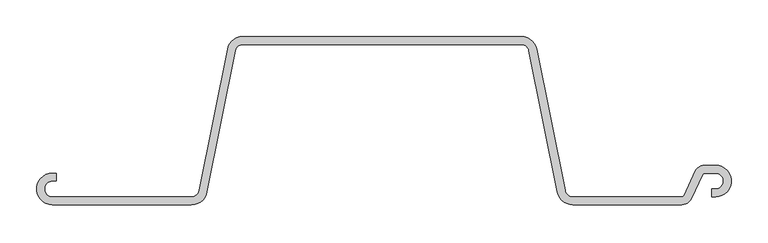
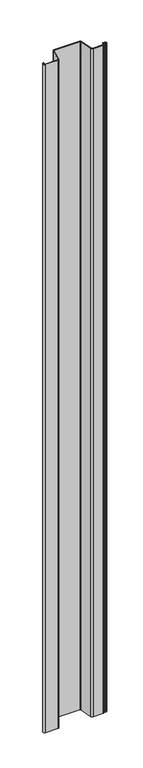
"""IFC4 building model written with IfcOpenShell, lengths in millimetres: proxy geometry, 鋼矢板10H型 : 鋼矢板10H型."""

from ifc_helpers import new_model, si_unit, point, frame, frame_2d, origin, place, context, project, spatial, polyline, circle_curve, trimmed, segment, composite_curve, outline, extrude, source, transform, mapped, element, save


def generic_models_16d24312(model_context):
    return source(origin(), model_context, "Body", "SweptSolid", [
        extrude(outline(composite_curve([segment(trimmed(circle_curve(frame_2d((409.1972607, -101.1142857)), 13.8857143), [point((421.7819917, -106.9826421))], [point((409.1972607, -115.0))], False, "CARTESIAN"), True, "CONTINUOUS"), segment(polyline([(409.1972607, -115.0), (260.2008232, -115.0)]), True, "CONTINUOUS"), segment(trimmed(circle_curve(frame_2d((260.2008232, -93.4)), 21.6), [point((260.2008232, -115.0))], [point((239.0202806, -97.6361085))], False, "CARTESIAN"), True, "CONTINUOUS"), segment(polyline([(239.0202806, -97.6361085), (200.3894481, 95.5180543)]), True, "CONTINUOUS"), segment(trimmed(circle_curve(frame_2d((189.7991768, 93.4)), 10.8), [point((200.3894481, 95.5180543))], [point((189.7991768, 104.2))], True, "CARTESIAN"), True, "CONTINUOUS"), segment(polyline([(189.7991768, 104.2), (-189.7991768, 104.2)]), True, "CONTINUOUS"), segment(trimmed(circle_curve(frame_2d((-189.7991768, 93.4)), 10.8), [point((-189.7991768, 104.2))], [point((-200.3894481, 95.5180543))], True, "CARTESIAN"), True, "CONTINUOUS"), segment(polyline([(-200.3894481, 95.5180543), (-239.0202806, -97.6361085)]), True, "CONTINUOUS"), segment(trimmed(circle_curve(frame_2d((-260.2008232, -93.4)), 21.6), [point((-239.0202806, -97.6361085))], [point((-260.2008232, -115.0))], False, "CARTESIAN"), True, "CONTINUOUS"), segment(polyline([(-260.2008232, -115.0), (-450.0, -115.0)]), True, "CONTINUOUS"), segment(trimmed(circle_curve(frame_2d((-450.0, -93.4)), 21.6), [point((-450.0, -115.0))], [point((-450.0, -71.8))], False, "CARTESIAN"), True, "CONTINUOUS"), segment(polyline([(-450.0, -71.8), (-445.0, -71.8), (-445.0, -82.6), (-450.0, -82.6)]), True, "CONTINUOUS"), segment(trimmed(circle_curve(frame_2d((-450.0, -93.4)), 10.8), [point((-450.0, -82.6))], [point((-450.0, -104.2))], True, "CARTESIAN"), True, "CONTINUOUS"), segment(polyline([(-450.0, -104.2), (-260.2008232, -104.2)]), True, "CONTINUOUS"), segment(trimmed(circle_curve(frame_2d((-260.2008232, -93.4)), 10.8), [point((-260.2008232, -104.2))], [point((-249.6105519, -95.5180543))], True, "CARTESIAN"), True, "CONTINUOUS"), segment(polyline([(-249.6105519, -95.5180543), (-210.9797194, 97.6361085)]), True, "CONTINUOUS"), segment(trimmed(circle_curve(frame_2d((-189.7991768, 93.4)), 21.6), [point((-210.9797194, 97.6361085))], [point((-189.7991768, 115.0))], False, "CARTESIAN"), True, "CONTINUOUS"), segment(polyline([(-189.7991768, 115.0), (189.7991768, 115.0)]), True, "CONTINUOUS"), segment(trimmed(circle_curve(frame_2d((189.7991768, 93.4)), 21.6), [point((189.7991768, 115.0))], [point((210.9797194, 97.6361085))], False, "CARTESIAN"), True, "CONTINUOUS"), segment(polyline([(210.9797194, 97.6361085), (249.6105519, -95.5180543)]), True, "CONTINUOUS"), segment(trimmed(circle_curve(frame_2d((260.2008232, -93.4)), 10.8), [point((249.6105519, -95.5180543))], [point((260.2008232, -104.2))], True, "CARTESIAN"), True, "CONTINUOUS"), segment(polyline([(260.2008232, -104.2), (409.1972607, -104.2)]), True, "CONTINUOUS"), segment(trimmed(circle_curve(frame_2d((409.1972607, -101.1142857)), 3.0857143), [point((409.1972607, -104.2))], [point((411.9938676, -102.4183649))], True, "CARTESIAN"), True, "CONTINUOUS"), segment(polyline([(411.9938676, -102.4183649), (427.569013, -69.0173579)]), True, "CONTINUOUS"), segment(trimmed(circle_curve(frame_2d((440.153744, -74.8857143)), 13.8857143), [point((427.569013, -69.0173579))], [point((440.153744, -61.0))], False, "CARTESIAN"), True, "CONTINUOUS"), segment(polyline([(440.153744, -61.0), (455.0, -61.0)]), True, "CONTINUOUS"), segment(trimmed(circle_curve(frame_2d((455.0, -82.6)), 21.6), [point((455.0, -61.0))], [point((455.0, -104.2))], False, "CARTESIAN"), True, "CONTINUOUS"), segment(polyline([(455.0, -104.2), (450.0, -104.2), (450.0, -93.4), (455.0, -93.4)]), True, "CONTINUOUS"), segment(trimmed(circle_curve(frame_2d((455.0, -82.6)), 10.8), [point((455.0, -93.4))], [point((455.0, -71.8))], True, "CARTESIAN"), True, "CONTINUOUS"), segment(polyline([(455.0, -71.8), (440.153744, -71.8)]), True, "CONTINUOUS"), segment(trimmed(circle_curve(frame_2d((440.153744, -74.8857143)), 3.0857143), [point((440.153744, -71.8))], [point((437.3571371, -73.5816351))], True, "CARTESIAN"), True, "CONTINUOUS"), segment(polyline([(437.3571371, -73.5816351), (421.7819917, -106.9826421)]), True, "CONTINUOUS")], self_intersect=False)), frame((0.0, 0.0, -10500.0), z_axis=(0.0, 0.0, 1.0), x_axis=(1.0, 0.0, 0.0)), (0.0, 0.0, 1.0), 10500.0),
    ])


if __name__ == "__main__":
    model = new_model("IFC4")
    model_context = context("Model", 3, world=origin())
    ifc_project = project(units=[si_unit("LENGTHUNIT", "METRE", prefix="MILLI")], contexts=[model_context])
    site = spatial("IfcSite", under=ifc_project)
    building = spatial("IfcBuilding", under=site)
    placement = place(None, origin())
    generic_models_shape = generic_models_16d24312(model_context)
    element("IfcBuildingElementProxy", 1, Name="鋼矢板10H型 : 鋼矢板10H型", ObjectType="鋼矢板10H型 : 鋼矢板10H型", at=placement, inside=building, context=model_context, shape_type="MappedRepresentation", body=[
        mapped(generic_models_shape, transform((0.0, 0.0, 0.0), x_axis=(1.0, 0.0, 0.0), y_axis=(0.0, 1.0, 0.0), z_axis=(0.0, 0.0, 1.0))),
    ])
    save(model, "model.ifc")
